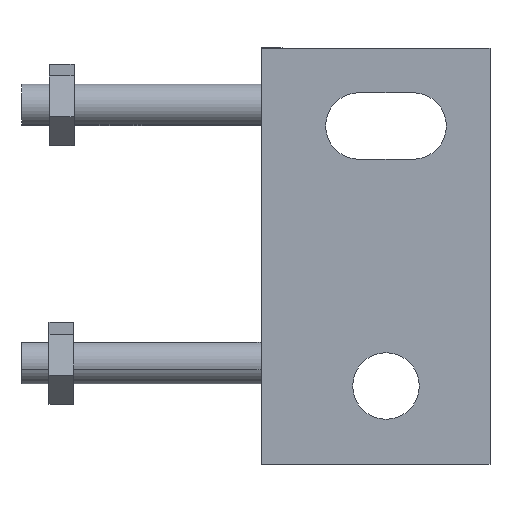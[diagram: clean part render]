
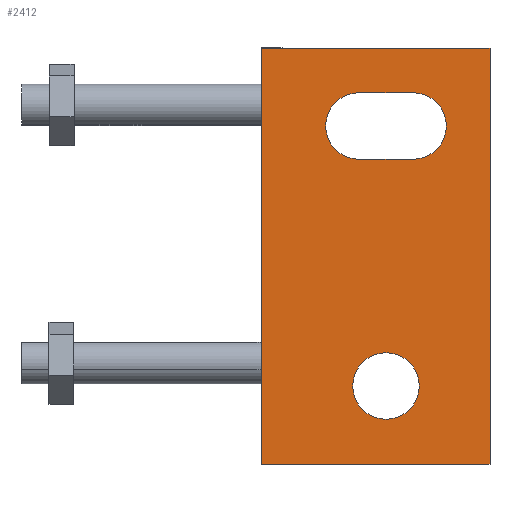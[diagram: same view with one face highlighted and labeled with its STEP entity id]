
A CAD part, front view. The second image highlights one B-rep face of the part: STEP entity #2412.
In plain terms, the highlighted planar face has unit normal (0, -1, 0).
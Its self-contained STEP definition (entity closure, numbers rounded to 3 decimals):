
#758 = DIRECTION ( 'NONE',  ( 0., 0., -1. ) ) ;
#759 = VECTOR ( 'NONE', #758, 1000. ) ;
#760 = CARTESIAN_POINT ( 'NONE',  ( -20., 0., 22. ) ) ;
#761 = LINE ( 'NONE', #760, #759 ) ;
#762 = CARTESIAN_POINT ( 'NONE',  ( -20., 0., 22. ) ) ;
#763 = DIRECTION ( 'NONE',  ( 1., 0., 0. ) ) ;
#764 = VECTOR ( 'NONE', #763, 1000. ) ;
#765 = CARTESIAN_POINT ( 'NONE',  ( 0., 0., 22. ) ) ;
#766 = LINE ( 'NONE', #765, #764 ) ;
#767 = CARTESIAN_POINT ( 'NONE',  ( 20., 0., 22. ) ) ;
#768 = DIRECTION ( 'NONE',  ( 0., 0., -1. ) ) ;
#769 = VECTOR ( 'NONE', #768, 1000. ) ;
#770 = CARTESIAN_POINT ( 'NONE',  ( 20., 0., 22. ) ) ;
#771 = LINE ( 'NONE', #770, #769 ) ;
#849 = DIRECTION ( 'NONE',  ( 0., 0., -1. ) ) ;
#850 = DIRECTION ( 'NONE',  ( 0., 1., 0. ) ) ;
#851 = AXIS2_PLACEMENT_3D ( 'NONE', #973, #850, #849 ) ;
#852 = CIRCLE ( 'NONE', #851, 3.2 ) ;
#869 = CARTESIAN_POINT ( 'NONE',  ( 20., 0., 0. ) ) ;
#870 = CARTESIAN_POINT ( 'NONE',  ( -20., 0., 0. ) ) ;
#871 = DIRECTION ( 'NONE',  ( 1., 0., 0. ) ) ;
#872 = VECTOR ( 'NONE', #871, 1000. ) ;
#873 = CARTESIAN_POINT ( 'NONE',  ( 0., 0., 0. ) ) ;
#874 = LINE ( 'NONE', #873, #872 ) ;
#973 = CARTESIAN_POINT ( 'NONE',  ( -12.5, 0., 9.4 ) ) ;
#1060 = FACE_BOUND ( 'NONE', #2176, .T. ) ;
#1061 = FACE_OUTER_BOUND ( 'NONE', #2415, .T. ) ;
#1062 = FACE_BOUND ( 'NONE', #2410, .T. ) ;
#1190 = DIRECTION ( 'NONE',  ( 0., 0., 1. ) ) ;
#1191 = DIRECTION ( 'NONE',  ( 0., 1., 0. ) ) ;
#1192 = CARTESIAN_POINT ( 'NONE',  ( 12.5, 0., 12. ) ) ;
#1193 = AXIS2_PLACEMENT_3D ( 'NONE', #1192, #1191, #1190 ) ;
#1194 = CIRCLE ( 'NONE', #1193, 3.2 ) ;
#1195 = DIRECTION ( 'NONE',  ( -1., 0., 0. ) ) ;
#1196 = DIRECTION ( 'NONE',  ( 0., 1., 0. ) ) ;
#1197 = CARTESIAN_POINT ( 'NONE',  ( 0., 0., 22. ) ) ;
#1198 = AXIS2_PLACEMENT_3D ( 'NONE', #1197, #1196, #1195 ) ;
#1199 = PLANE ( 'NONE',  #1198 ) ;
#1552 = CARTESIAN_POINT ( 'NONE',  ( -9.3, 0., 14.6 ) ) ;
#1553 = DIRECTION ( 'NONE',  ( 0., 0., 1. ) ) ;
#1554 = DIRECTION ( 'NONE',  ( 0., 1., 0. ) ) ;
#1555 = CARTESIAN_POINT ( 'NONE',  ( -12.5, 0., 14.6 ) ) ;
#1556 = AXIS2_PLACEMENT_3D ( 'NONE', #1555, #1554, #1553 ) ;
#1557 = CIRCLE ( 'NONE', #1556, 3.2 ) ;
#1558 = CARTESIAN_POINT ( 'NONE',  ( -15.7, 0., 14.6 ) ) ;
#1559 = DIRECTION ( 'NONE',  ( 0., 0., 1. ) ) ;
#1560 = VECTOR ( 'NONE', #1559, 1000. ) ;
#1561 = CARTESIAN_POINT ( 'NONE',  ( -15.7, 0., 9.4 ) ) ;
#1562 = LINE ( 'NONE', #1561, #1560 ) ;
#1563 = CARTESIAN_POINT ( 'NONE',  ( -15.7, 0., 9.4 ) ) ;
#1579 = CARTESIAN_POINT ( 'NONE',  ( 12.5, 0., 8.8 ) ) ;
#1580 = DIRECTION ( 'NONE',  ( 0., 0., 1. ) ) ;
#1581 = DIRECTION ( 'NONE',  ( 0., 1., 0. ) ) ;
#1582 = CARTESIAN_POINT ( 'NONE',  ( 12.5, 0., 12. ) ) ;
#1583 = AXIS2_PLACEMENT_3D ( 'NONE', #1582, #1581, #1580 ) ;
#1683 = DIRECTION ( 'NONE',  ( 0., 0., -1. ) ) ;
#1684 = VECTOR ( 'NONE', #1683, 1000. ) ;
#1685 = CARTESIAN_POINT ( 'NONE',  ( -9.3, 0., 9.4 ) ) ;
#1686 = LINE ( 'NONE', #1685, #1684 ) ;
#1689 = CIRCLE ( 'NONE', #1583, 3.2 ) ;
#1690 = CARTESIAN_POINT ( 'NONE',  ( 12.5, 0., 15.2 ) ) ;
#1712 = CARTESIAN_POINT ( 'NONE',  ( -9.3, 0., 9.4 ) ) ;
#1713 = DIRECTION ( 'NONE',  ( 0., 0., -1. ) ) ;
#1714 = DIRECTION ( 'NONE',  ( 0., 1., 0. ) ) ;
#1715 = CARTESIAN_POINT ( 'NONE',  ( -12.5, 0., 9.4 ) ) ;
#1716 = AXIS2_PLACEMENT_3D ( 'NONE', #1715, #1714, #1713 ) ;
#1717 = CIRCLE ( 'NONE', #1716, 3.2 ) ;
#1718 = CARTESIAN_POINT ( 'NONE',  ( -12.5, 0., 6.2 ) ) ;
#2176 = EDGE_LOOP ( 'NONE', ( #2177, #2178, #2603, #2606, #2609 ) ) ;
#2177 = ORIENTED_EDGE ( 'NONE', *, *, #2580, .T. ) ;
#2178 = ORIENTED_EDGE ( 'NONE', *, *, #2179, .T. ) ;
#2179 = EDGE_CURVE ( 'NONE', #2578, #2602, #852, .T. ) ;
#2204 = ORIENTED_EDGE ( 'NONE', *, *, #2205, .T. ) ;
#2205 = EDGE_CURVE ( 'NONE', #2206, #2207, #874, .T. ) ;
#2206 = VERTEX_POINT ( 'NONE', #870 ) ;
#2207 = VERTEX_POINT ( 'NONE', #869 ) ;
#2208 = ORIENTED_EDGE ( 'NONE', *, *, #2209, .F. ) ;
#2209 = EDGE_CURVE ( 'NONE', #2210, #2207, #771, .T. ) ;
#2210 = VERTEX_POINT ( 'NONE', #767 ) ;
#2211 = ORIENTED_EDGE ( 'NONE', *, *, #2212, .F. ) ;
#2212 = EDGE_CURVE ( 'NONE', #2213, #2210, #766, .T. ) ;
#2213 = VERTEX_POINT ( 'NONE', #762 ) ;
#2214 = ORIENTED_EDGE ( 'NONE', *, *, #2215, .T. ) ;
#2215 = EDGE_CURVE ( 'NONE', #2213, #2206, #761, .T. ) ;
#2409 = ORIENTED_EDGE ( 'NONE', *, *, #2594, .T. ) ;
#2410 = EDGE_LOOP ( 'NONE', ( #2409, #2413 ) ) ;
#2412 = ADVANCED_FACE ( 'NONE', ( #1062, #1061, #1060 ), #1199, .F. ) ;
#2413 = ORIENTED_EDGE ( 'NONE', *, *, #2414, .T. ) ;
#2414 = EDGE_CURVE ( 'NONE', #2592, #2595, #1194, .T. ) ;
#2415 = EDGE_LOOP ( 'NONE', ( #2204, #2208, #2211, #2214 ) ) ;
#2578 = VERTEX_POINT ( 'NONE', #1718 ) ;
#2580 = EDGE_CURVE ( 'NONE', #2581, #2578, #1717, .T. ) ;
#2581 = VERTEX_POINT ( 'NONE', #1712 ) ;
#2592 = VERTEX_POINT ( 'NONE', #1690 ) ;
#2594 = EDGE_CURVE ( 'NONE', #2595, #2592, #1689, .T. ) ;
#2595 = VERTEX_POINT ( 'NONE', #1579 ) ;
#2602 = VERTEX_POINT ( 'NONE', #1563 ) ;
#2603 = ORIENTED_EDGE ( 'NONE', *, *, #2604, .T. ) ;
#2604 = EDGE_CURVE ( 'NONE', #2602, #2605, #1562, .T. ) ;
#2605 = VERTEX_POINT ( 'NONE', #1558 ) ;
#2606 = ORIENTED_EDGE ( 'NONE', *, *, #2607, .T. ) ;
#2607 = EDGE_CURVE ( 'NONE', #2605, #2608, #1557, .T. ) ;
#2608 = VERTEX_POINT ( 'NONE', #1552 ) ;
#2609 = ORIENTED_EDGE ( 'NONE', *, *, #2610, .T. ) ;
#2610 = EDGE_CURVE ( 'NONE', #2608, #2581, #1686, .T. ) ;
